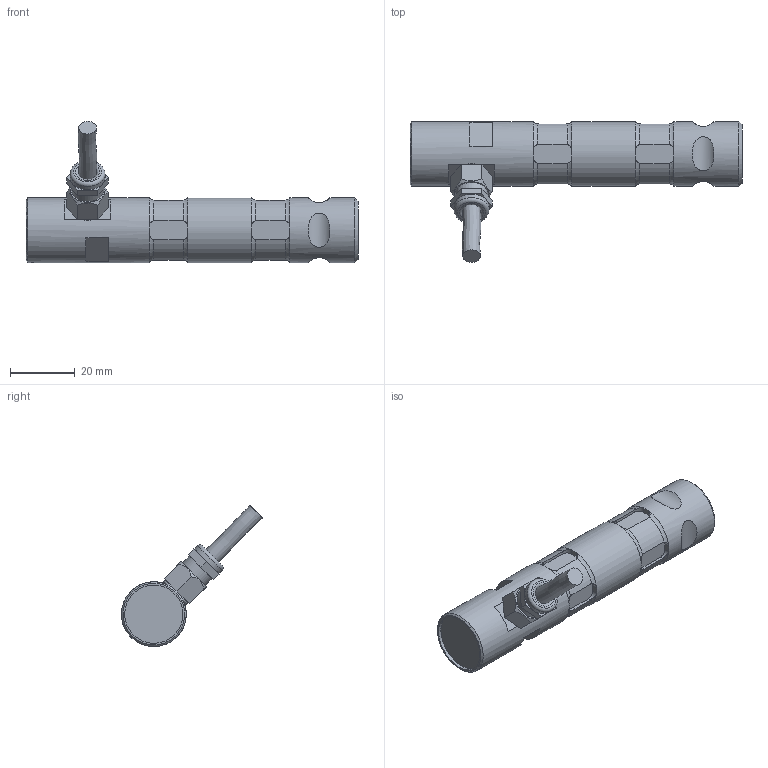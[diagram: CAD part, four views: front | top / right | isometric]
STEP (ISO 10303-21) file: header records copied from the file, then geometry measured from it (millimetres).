
FILE_DESCRIPTION(/* description */ ('Alibre Inc.'),/* implementation_level */ '2;1');
FILE_NAME(/* name */ 'export-45ACC0F9-DCBD-4B54-A6A8-0E17795A7090',/* time_stamp */ '2020-10-15T11:05:34+02:00',/* author */ (''),/* organization */ (''),/* preprocessor_version */ 'ST-DEVELOPER v17',/* originating_system */ 'Alibre',/* authorisation */ '');
FILE_SCHEMA (('CONFIG_CONTROL_DESIGN'));
Length unit declared in the file: centimetre
Bounding box: 102.5 x 43.57 x 43.57 mm (x, y, z)
Volume: 31736.8 mm3; surface area: 9352.9 mm2
Topology: 4 solids, 4 shells, 211 faces, 532 edges, 342 vertices
Faces by surface type: plane 117, cylinder 69, torus 19, cone 5, bspline 1
Full cylindrical faces by diameter (mm): 5.5 x1, 7 x1, 8 x1, 10 x1, 10.8 x1, 18 x1, 20 x3
Entity records: 7061 total; most frequent: CARTESIAN_POINT 1896, ORIENTED_EDGE 1018, DIRECTION 765, EDGE_CURVE 509, VERTEX_POINT 338, AXIS2_PLACEMENT_3D 295, VECTOR 293, LINE 293
